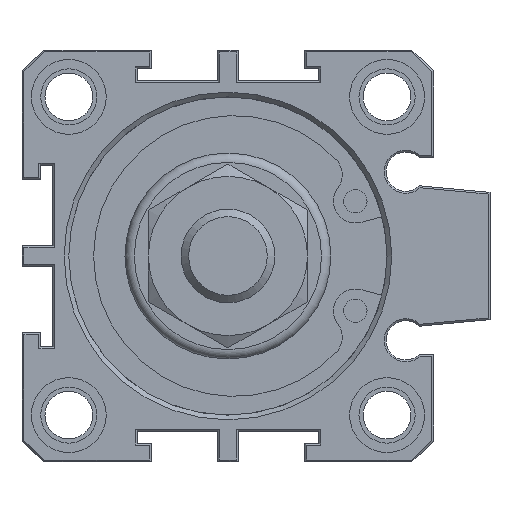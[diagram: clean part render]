
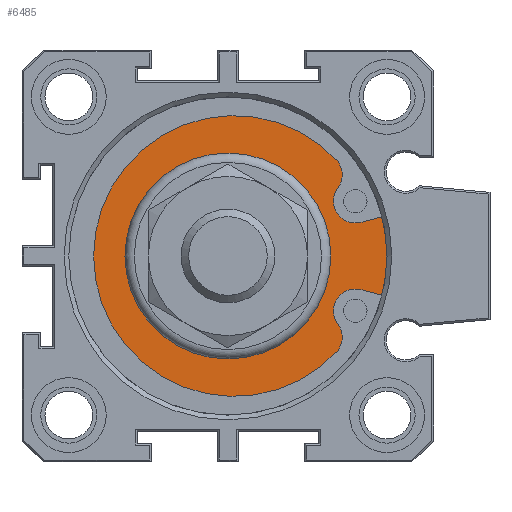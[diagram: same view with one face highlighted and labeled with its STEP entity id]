
A CAD part, front view. The second image highlights one B-rep face of the part: STEP entity #6485.
In plain terms, the highlighted planar face has unit normal (0, -1, 0).
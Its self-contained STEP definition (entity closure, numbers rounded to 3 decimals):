
#43=LINE('',#8752,#443);
#44=LINE('',#8764,#444);
#443=VECTOR('',#7359,1000.);
#444=VECTOR('',#7370,1000.);
#1119=ORIENTED_EDGE('',*,*,#2273,.F.);
#1120=ORIENTED_EDGE('',*,*,#2276,.F.);
#1121=ORIENTED_EDGE('',*,*,#2277,.T.);
#1122=ORIENTED_EDGE('',*,*,#2278,.T.);
#1123=ORIENTED_EDGE('',*,*,#2279,.T.);
#1124=ORIENTED_EDGE('',*,*,#2280,.T.);
#1125=ORIENTED_EDGE('',*,*,#2281,.T.);
#1126=ORIENTED_EDGE('',*,*,#2282,.T.);
#1127=ORIENTED_EDGE('',*,*,#2283,.T.);
#2273=EDGE_CURVE('',#2859,#2859,#3227,.F.);
#2276=EDGE_CURVE('',#2862,#2863,#3230,.T.);
#2277=EDGE_CURVE('',#2862,#2864,#43,.T.);
#2278=EDGE_CURVE('',#2864,#2865,#3231,.T.);
#2279=EDGE_CURVE('',#2865,#2866,#3232,.T.);
#2280=EDGE_CURVE('',#2866,#2867,#3233,.T.);
#2281=EDGE_CURVE('',#2867,#2868,#3234,.T.);
#2282=EDGE_CURVE('',#2868,#2869,#3235,.T.);
#2283=EDGE_CURVE('',#2869,#2863,#44,.T.);
#2859=VERTEX_POINT('',#8741);
#2862=VERTEX_POINT('',#8750);
#2863=VERTEX_POINT('',#8751);
#2864=VERTEX_POINT('',#8753);
#2865=VERTEX_POINT('',#8755);
#2866=VERTEX_POINT('',#8757);
#2867=VERTEX_POINT('',#8759);
#2868=VERTEX_POINT('',#8761);
#2869=VERTEX_POINT('',#8763);
#3227=CIRCLE('',#6819,11.);
#3230=CIRCLE('',#6825,17.85);
#3231=CIRCLE('',#6826,2.34);
#3232=CIRCLE('',#6827,2.34);
#3233=CIRCLE('',#6828,15.);
#3234=CIRCLE('',#6829,2.34);
#3235=CIRCLE('',#6830,2.34);
#3389=EDGE_LOOP('',(#1119));
#3390=EDGE_LOOP('',(#1120,#1121,#1122,#1123,#1124,#1125,#1126,#1127));
#3773=FACE_BOUND('',#3389,.T.);
#3774=FACE_BOUND('',#3390,.T.);
#4130=PLANE('',#6824);
#6485=ADVANCED_FACE('',(#3773,#3774),#4130,.F.);
#6819=AXIS2_PLACEMENT_3D('',#8740,#7345,#7346);
#6824=AXIS2_PLACEMENT_3D('',#8748,#7355,#7356);
#6825=AXIS2_PLACEMENT_3D('',#8749,#7357,#7358);
#6826=AXIS2_PLACEMENT_3D('',#8754,#7360,#7361);
#6827=AXIS2_PLACEMENT_3D('',#8756,#7362,#7363);
#6828=AXIS2_PLACEMENT_3D('',#8758,#7364,#7365);
#6829=AXIS2_PLACEMENT_3D('',#8760,#7366,#7367);
#6830=AXIS2_PLACEMENT_3D('',#8762,#7368,#7369);
#7345=DIRECTION('',(0.,1.,0.));
#7346=DIRECTION('',(-1.,0.,0.));
#7355=DIRECTION('',(0.,1.,0.));
#7356=DIRECTION('',(-1.,0.,0.));
#7357=DIRECTION('',(0.,1.,0.));
#7358=DIRECTION('',(-1.,0.,0.));
#7359=DIRECTION('',(-0.966,0.,-0.259));
#7360=DIRECTION('',(0.,1.,0.));
#7361=DIRECTION('',(1.,0.,0.));
#7362=DIRECTION('',(0.,-1.,0.));
#7363=DIRECTION('',(-1.,0.,0.));
#7364=DIRECTION('',(0.,-1.,0.));
#7365=DIRECTION('',(1.,0.,0.));
#7366=DIRECTION('',(0.,-1.,0.));
#7367=DIRECTION('',(-1.,0.,0.));
#7368=DIRECTION('',(0.,1.,0.));
#7369=DIRECTION('',(1.,0.,0.));
#7370=DIRECTION('',(0.966,0.,-0.259));
#8740=CARTESIAN_POINT('',(0.,3.7,0.));
#8741=CARTESIAN_POINT('',(-11.,3.7,0.));
#8748=CARTESIAN_POINT('',(0.,3.7,-2.5));
#8749=CARTESIAN_POINT('',(0.,3.7,0.));
#8750=CARTESIAN_POINT('',(17.293,3.7,4.425));
#8751=CARTESIAN_POINT('',(17.293,3.7,-4.425));
#8752=CARTESIAN_POINT('',(17.293,3.7,4.425));
#8753=CARTESIAN_POINT('',(14.218,3.7,3.601));
#8754=CARTESIAN_POINT('',(13.612,3.7,5.861));
#8755=CARTESIAN_POINT('',(11.719,3.7,7.237));
#8756=CARTESIAN_POINT('',(9.875,3.7,8.677));
#8757=CARTESIAN_POINT('',(11.688,3.7,10.157));
#8758=CARTESIAN_POINT('',(0.65,3.7,0.));
#8759=CARTESIAN_POINT('',(11.688,3.7,-10.157));
#8760=CARTESIAN_POINT('',(9.875,3.7,-8.677));
#8761=CARTESIAN_POINT('',(11.719,3.7,-7.237));
#8762=CARTESIAN_POINT('',(13.612,3.7,-5.861));
#8763=CARTESIAN_POINT('',(14.218,3.7,-3.601));
#8764=CARTESIAN_POINT('',(14.218,3.7,-3.601));
